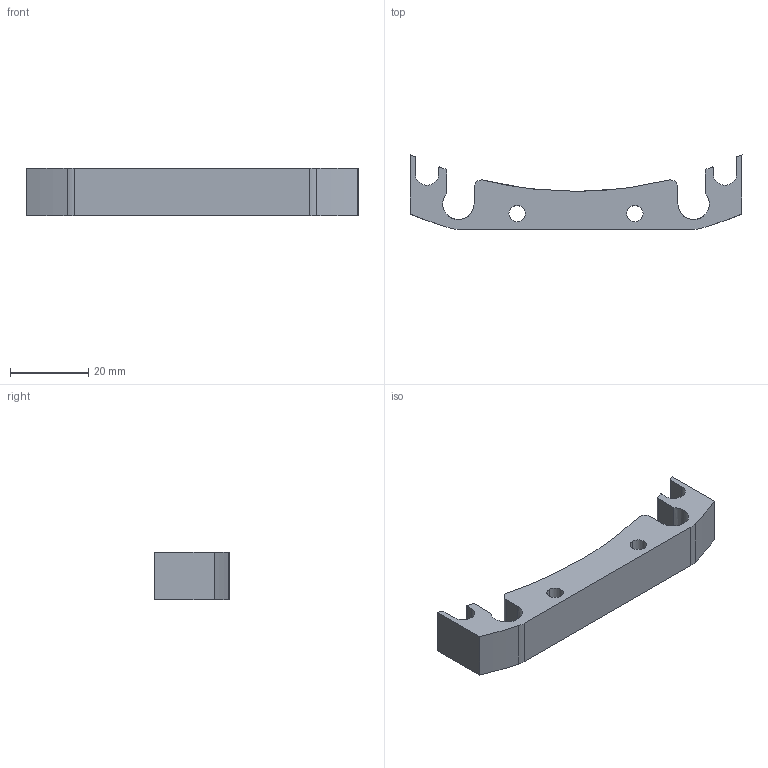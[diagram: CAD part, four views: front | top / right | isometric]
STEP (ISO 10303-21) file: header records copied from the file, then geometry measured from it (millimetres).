
FILE_DESCRIPTION (( 'STEP AP214' ), '1' );
FILE_NAME ('railsurfaceextract.STEP', '2024-11-07T03:54:30', ( '' ), ( '' ), 'SwSTEP 2.0', 'SolidWorks 2024', '' );
FILE_SCHEMA (( 'AUTOMOTIVE_DESIGN' ));
Length unit declared in the file: inch
Products named in the file (1): railsurfaceextract
Bounding box: 84.67 x 19.07 x 12 mm (x, y, z)
Volume: 9406.9 mm3; surface area: 5003.5 mm2
Topology: 1 solids, 1 shells, 40 faces, 118 edges, 80 vertices
Faces by surface type: cylinder 20, plane 17, bspline 3
Entity records: 1866 total; most frequent: CARTESIAN_POINT 749, ORIENTED_EDGE 236, DIRECTION 222, EDGE_CURVE 118, VERTEX_POINT 80, AXIS2_PLACEMENT_3D 78, LINE 66, VECTOR 66
